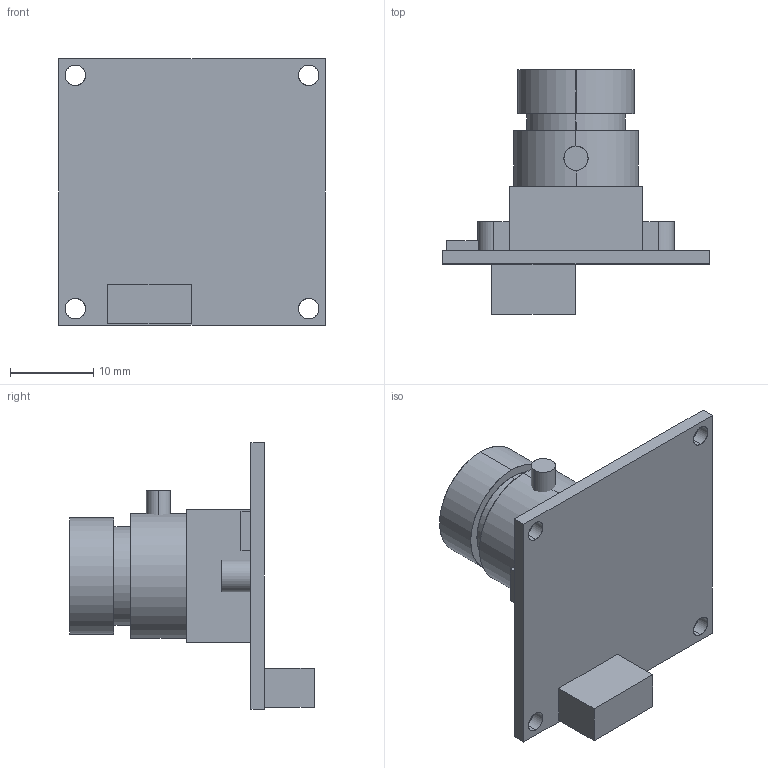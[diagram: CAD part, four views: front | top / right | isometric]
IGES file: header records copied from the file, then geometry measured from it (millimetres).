
Start section: SolidWorks IGES file using analytic representation for surfaces
Global section: file name: C:\Users\Adam\Dropbox\BR-Engineering\Models\CAMTILT-X4\CAMERA PARTS\LOW-LIGHT-HD-USB-CAMERA-R1.IGS; native system: SolidWorks 2016; preprocessor: SolidWorks 2016; author: Adam; date: 170828.153456; units: millimetre
Bounding box: 32 x 29.35 x 32 mm (x, y, z)
Surface area: 3770.7 mm2 (no closed solid volume)
Topology: 0 solids, 0 shells, 50 faces, 780 edges, 780 vertices
Faces by surface type: bspline 32, revolution 18
